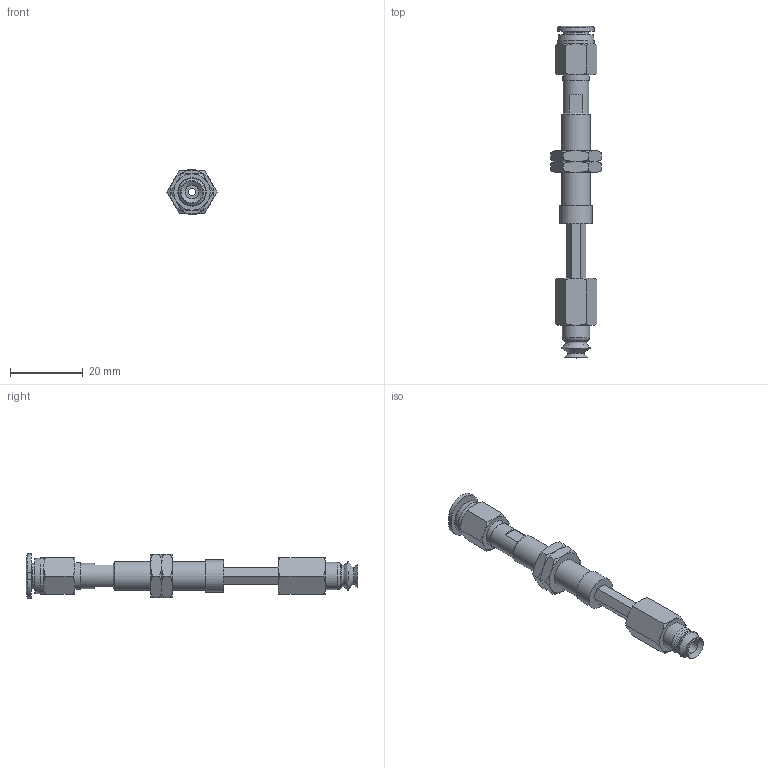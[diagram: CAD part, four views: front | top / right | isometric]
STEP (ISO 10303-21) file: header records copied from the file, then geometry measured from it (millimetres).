
FILE_DESCRIPTION(('STEP AP203'),'1');
FILE_NAME('-O.stp','2025-08-27T06:22:52',(' '),(' '),'Spatial InterOp 3D',' ',' ');
FILE_SCHEMA(('CONFIG_CONTROL_DESIGN'));
Length unit declared in the file: millimetre
Products named in the file (7): BNABPJTH-6-15-※-O; ADAPTER; NAPATH-10A-15--M; NAPJH-6-15-NUT; NAPJTH-6-15-FBODY; BPJG-6-※; PC-C_06-M5
Assembly tree (7 placements, depth 2):
  BNABPJTH-6-15-※-O
    ADAPTER
    NAPATH-10A-15--M
    NAPJH-6-15-NUT  x2
    NAPJTH-6-15-FBODY
    BPJG-6-※
    PC-C_06-M5
Bounding box: 13.86 x 91.48 x 12.4 mm (x, y, z)
Volume: 3837.1 mm3; surface area: 5744.1 mm2
Topology: 6 solids, 9 shells, 176 faces, 376 edges, 228 vertices
Faces by surface type: plane 68, cone 65, cylinder 23, torus 13, bspline 4, revolution 3
Full cylindrical faces by diameter (mm): 2 x2, 3.64 x1, 4 x4, 4.134 x1, 5 x1, 6 x2, 7 x2, 7.188 x2, 7.4 x1, 7.5 x1, 8 x1, 8.2 x1, 9 x1, 10 x1
Entity records: 4532 total; most frequent: CARTESIAN_POINT 1250, DIRECTION 607, ORIENTED_EDGE 526, EDGE_CURVE 265, AXIS2_PLACEMENT_3D 264, EDGE_LOOP 226, VERTEX_POINT 187, FACE_OUTER_BOUND 126
